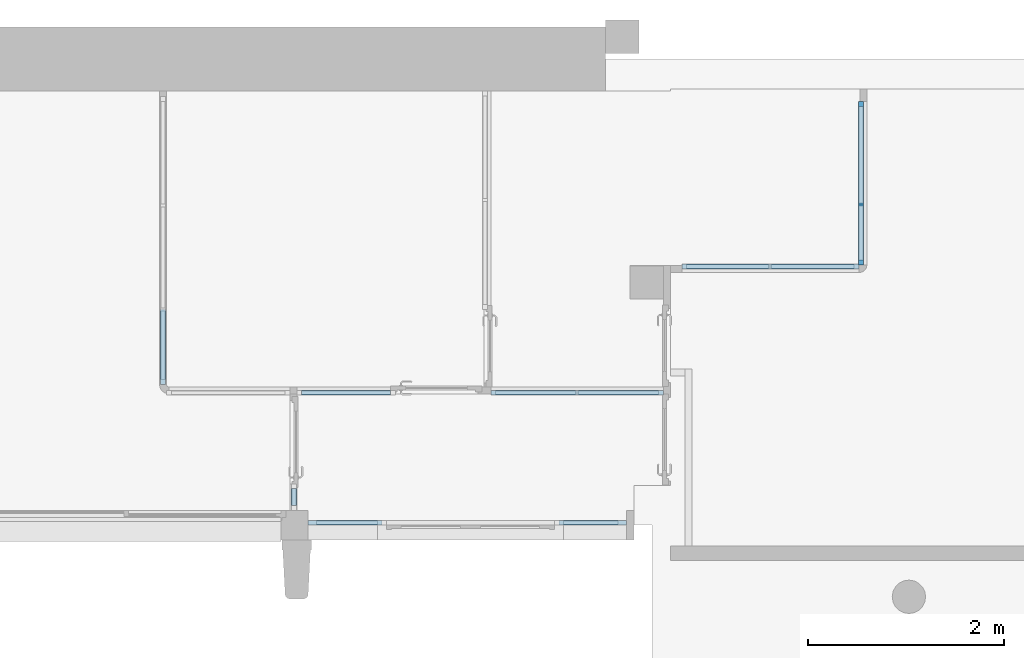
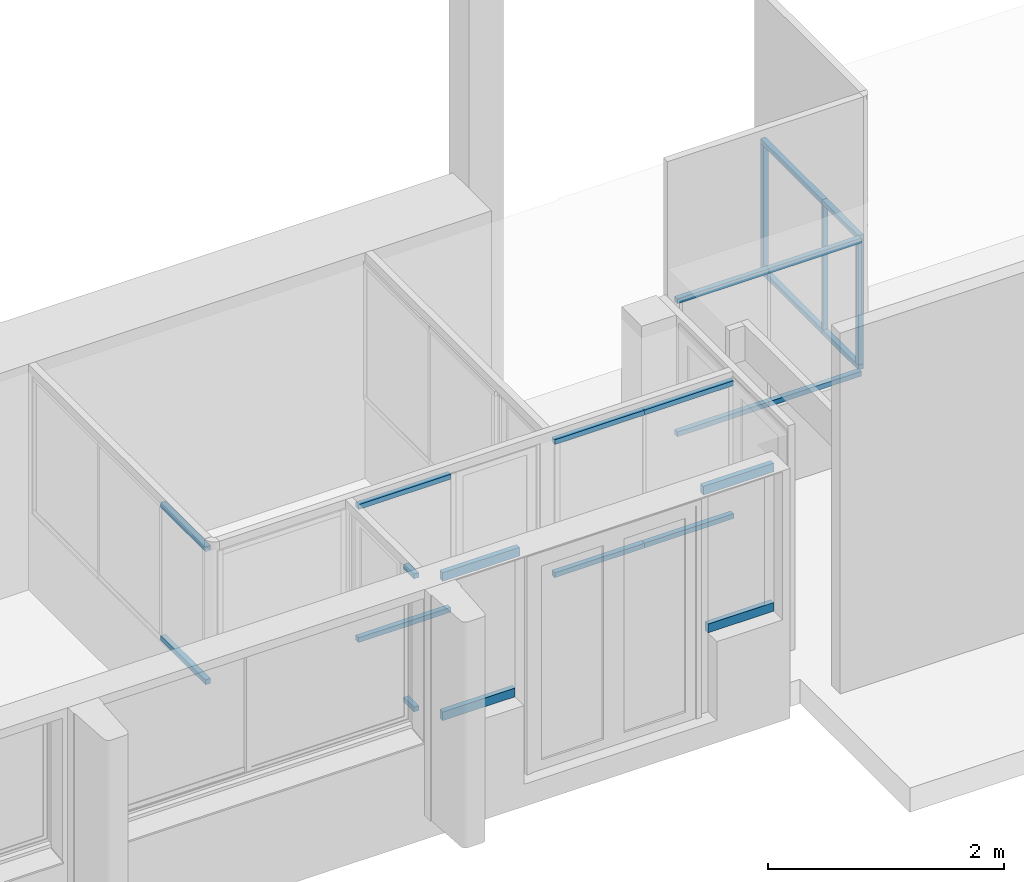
# One storey, part 3 of 19: 25 members, 7 elements without a shape of their own.
"""IFC4 building model written with IfcOpenShell, lengths in metres."""

from ifc_helpers import new_model, entity, si_unit, converted_unit, derived_unit, direction, frame, origin, place, context, subcontext, project, spatial, indexed_curve, outline, extrude, source, transform, mapped, material, type_object, type_shapes, element, aggregate, save


model = new_model("IFC4")

# Units and contexts
model_context = context("Model", 3, precision=1e-05, world=origin(), true_north=direction((6.12303176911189e-17, 1.0)))
body_context = subcontext(model_context, "Body", "Model", "MODEL_VIEW")
ifc_project = project(units=[si_unit("LENGTHUNIT", "METRE"), si_unit("AREAUNIT", "SQUARE_METRE"), si_unit("VOLUMEUNIT", "CUBIC_METRE"), converted_unit("PLANEANGLEUNIT", "DEGREE", entity("IfcRatioMeasure", 0.0174532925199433), si_unit("PLANEANGLEUNIT", "RADIAN"), dimensions=[0, 0, 0, 0, 0, 0, 0]), si_unit("MASSUNIT", "GRAM", prefix="KILO"), derived_unit("MASSDENSITYUNIT", [(si_unit("MASSUNIT", "GRAM", prefix="KILO"), 1), (si_unit("LENGTHUNIT", "METRE"), -3)]), derived_unit("MOMENTOFINERTIAUNIT", [(si_unit("LENGTHUNIT", "METRE"), 4)]), si_unit("TIMEUNIT", "SECOND"), si_unit("FREQUENCYUNIT", "HERTZ"), si_unit("THERMODYNAMICTEMPERATUREUNIT", "DEGREE_CELSIUS"), derived_unit("THERMALTRANSMITTANCEUNIT", [(si_unit("MASSUNIT", "GRAM", prefix="KILO"), 1), (si_unit("THERMODYNAMICTEMPERATUREUNIT", "KELVIN"), -1), (si_unit("TIMEUNIT", "SECOND"), -3)]), derived_unit("VOLUMETRICFLOWRATEUNIT", [(si_unit("LENGTHUNIT", "METRE"), 3), (si_unit("TIMEUNIT", "SECOND"), -1)]), si_unit("ELECTRICCURRENTUNIT", "AMPERE"), si_unit("ELECTRICVOLTAGEUNIT", "VOLT"), si_unit("POWERUNIT", "WATT"), si_unit("FORCEUNIT", "NEWTON", prefix="KILO"), si_unit("ILLUMINANCEUNIT", "LUX"), si_unit("LUMINOUSFLUXUNIT", "LUMEN"), si_unit("LUMINOUSINTENSITYUNIT", "CANDELA"), derived_unit("USERDEFINED", [(si_unit("MASSUNIT", "GRAM", prefix="KILO"), -1), (si_unit("LENGTHUNIT", "METRE"), -2), (si_unit("TIMEUNIT", "SECOND"), 3), (si_unit("LUMINOUSFLUXUNIT", "LUMEN"), 1)]), derived_unit("LINEARVELOCITYUNIT", [(si_unit("LENGTHUNIT", "METRE"), 1), (si_unit("TIMEUNIT", "SECOND"), -1)]), si_unit("PRESSUREUNIT", "PASCAL"), derived_unit("USERDEFINED", [(si_unit("LENGTHUNIT", "METRE"), -2), (si_unit("MASSUNIT", "GRAM", prefix="KILO"), 1), (si_unit("TIMEUNIT", "SECOND"), -2)]), derived_unit("LINEARFORCEUNIT", [(si_unit("MASSUNIT", "GRAM", prefix="KILO"), 1), (si_unit("LENGTHUNIT", "METRE"), 1), (si_unit("TIMEUNIT", "SECOND"), -2), (si_unit("LENGTHUNIT", "METRE"), -1)]), derived_unit("PLANARFORCEUNIT", [(si_unit("MASSUNIT", "GRAM", prefix="KILO"), 1), (si_unit("LENGTHUNIT", "METRE"), 1), (si_unit("TIMEUNIT", "SECOND"), -2), (si_unit("LENGTHUNIT", "METRE"), -2)])], contexts=[model_context])

# Site, building, storey
site_placement = place(None, origin())
site = spatial("IfcSite", under=ifc_project, at=site_placement, Name="Default", CompositionType="ELEMENT")
building_placement = place(site_placement, origin())
building = spatial("IfcBuilding", under=site, at=building_placement, Name="HOTEL CONSULAIRE BOULOGNE SUR MER", CompositionType="ELEMENT")
storey_placement = place(building_placement, frame((0.0, 0.0, -4.01003075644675)))
storey = spatial("IfcBuildingStorey", under=building, at=storey_placement, Name="SS2", CompositionType="ELEMENT", Elevation=-4.01003075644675)

# Curtain wall, members
curtain_wall_type = type_object("IfcCurtainWallType", Name="Mur-rideau:Simple panneau", PredefinedType="NOTDEFINED")
curtain_wall_1_placement = place(storey_placement, frame((0.0, 0.0, 4.01003075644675)))
curtain_wall_1 = element("IfcCurtainWall", 1, at=curtain_wall_1_placement, inside=storey, type_object=curtain_wall_type, Name="Mur-rideau:Simple panneau", ObjectType="Mur-rideau:Simple panneau", PredefinedType="NOTDEFINED")
ifc_material_1 = material(Name="PVC, souple", Category="Plastique")
member_type_1 = type_object("IfcMemberType", Name="Meneau rectangulaire:90x50", PredefinedType="MULLION", material=ifc_material_1)
shared_shape_1 = source(origin(), body_context, "Body", "SweptSolid", [
    extrude(outline(indexed_curve([(-0.025, -0.045), (0.025, -0.045), (0.025, 0.045), (-0.025, 0.045), (-0.025, -0.045)], self_intersect=False)), frame((-0.045, -0.025, -0.690570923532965), z_axis=(0.0, 0.0, 1.0), x_axis=(0.0, -1.0, 0.0)), (0.0, 0.0, 1.0), 0.690570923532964),
])
type_shapes(member_type_1, [shared_shape_1])
member_1_placement = place(storey_placement, frame((-13.9187787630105, -14.8875756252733, 2.33), z_axis=(1.0, 0.0, 0.0), x_axis=(0.0, 0.0, 1.0)))
member_1 = element("IfcMember", 2, at=member_1_placement, type_object=member_type_1, material=ifc_material_1, Name="Meneau rectangulaire:90x50", ObjectType="Meneau rectangulaire:90x50", PredefinedType="MULLION", context=body_context, shape_type="MappedRepresentation", body=[
    mapped(shared_shape_1, transform((0.0, 0.0, 0.0), scale=1.0)),
])
member_type_2 = type_object("IfcMemberType", Name="Meneau rectangulaire:90x50", PredefinedType="MULLION", material=ifc_material_1)
shared_shape_2 = source(origin(), body_context, "Body", "SweptSolid", [
    extrude(outline(indexed_curve([(-0.025, -0.045), (0.025, -0.045), (0.025, 0.045), (-0.025, 0.045), (-0.025, -0.045)], self_intersect=False)), frame((-0.045, -0.025, -0.710435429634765), z_axis=(0.0, 0.0, 1.0), x_axis=(0.0, -1.0, 0.0)), (0.0, 0.0, 1.0), 0.710435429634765),
])
type_shapes(member_type_2, [shared_shape_2])
member_2_placement = place(storey_placement, frame((-17.1647787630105, -14.8875756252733, 0.796432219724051), z_axis=(-1.0, 0.0, 0.0), x_axis=(0.0, 0.0, -1.0)))
member_2 = element("IfcMember", 3, at=member_2_placement, type_object=member_type_2, material=ifc_material_1, Name="Meneau rectangulaire:90x50", ObjectType="Meneau rectangulaire:90x50", PredefinedType="MULLION", context=body_context, shape_type="MappedRepresentation", body=[
    mapped(shared_shape_2, transform((0.0, 0.0, 0.0), scale=1.0)),
])
member_type_3 = type_object("IfcMemberType", Name="Meneau rectangulaire:90x50", PredefinedType="MULLION", material=ifc_material_1)
shared_shape_3 = source(origin(), body_context, "Body", "SweptSolid", [
    extrude(outline(indexed_curve([(-0.025, -0.045), (0.025, -0.045), (0.025, 0.045), (-0.025, 0.045), (-0.025, -0.045)], self_intersect=False)), frame((-0.045, -0.025, -0.645570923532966), z_axis=(0.0, 0.0, 1.0), x_axis=(0.0, -1.0, 0.0)), (0.0, 0.0, 1.0), 0.645570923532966),
])
type_shapes(member_type_3, [shared_shape_3])
member_3_placement = place(storey_placement, frame((-14.5643496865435, -14.8875756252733, 0.796432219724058), z_axis=(-1.0, 0.0, 0.0), x_axis=(0.0, 0.0, -1.0)))
member_3 = element("IfcMember", 4, at=member_3_placement, type_object=member_type_3, material=ifc_material_1, Name="Meneau rectangulaire:90x50", ObjectType="Meneau rectangulaire:90x50", PredefinedType="MULLION", context=body_context, shape_type="MappedRepresentation", body=[
    mapped(shared_shape_3, transform((0.0, 0.0, 0.0), scale=1.0)),
])
member_type_4 = type_object("IfcMemberType", Name="Meneau rectangulaire:90x50", PredefinedType="MULLION", material=ifc_material_1)
shared_shape_4 = source(origin(), body_context, "Body", "SweptSolid", [
    extrude(outline(indexed_curve([(-0.025, -0.045), (0.025, -0.045), (0.025, 0.045), (-0.025, 0.045), (-0.025, -0.045)], self_intersect=False)), frame((-0.045, -0.025, -0.755435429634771), z_axis=(0.0, 0.0, 1.0), x_axis=(0.0, -1.0, 0.0)), (0.0, 0.0, 1.0), 0.755435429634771),
])
type_shapes(member_type_4, [shared_shape_4])
member_4_placement = place(storey_placement, frame((-16.4093433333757, -14.8875756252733, 2.33), z_axis=(1.0, 0.0, 0.0), x_axis=(0.0, 0.0, 1.0)))
member_4 = element("IfcMember", 5, at=member_4_placement, type_object=member_type_4, material=ifc_material_1, Name="Meneau rectangulaire:90x50", ObjectType="Meneau rectangulaire:90x50", PredefinedType="MULLION", context=body_context, shape_type="MappedRepresentation", body=[
    mapped(shared_shape_4, transform((0.0, 0.0, 0.0), scale=1.0)),
])
aggregate(curtain_wall_1, [member_1, member_2, member_3, member_4])

curtain_wall_2_placement = place(storey_placement, frame((0.0, 0.0, 4.01003075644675)))
curtain_wall_2 = element("IfcCurtainWall", 6, at=curtain_wall_2_placement, inside=storey, type_object=curtain_wall_type, Name="Mur-rideau:Simple panneau", ObjectType="Mur-rideau:Simple panneau", PredefinedType="NOTDEFINED")
ifc_material_2 = material(Name="PVC - Blanc", Category="Plastique")
member_type_5 = type_object("IfcMemberType", Name="Meneau rectangulaire:50x50 PVC BLANC", PredefinedType="MULLION", material=ifc_material_2)
shared_shape_5 = source(origin(), body_context, "Body", "SweptSolid", [
    extrude(outline(indexed_curve([(-0.025, -0.025), (0.025, -0.025), (0.025, 0.025), (-0.025, 0.025), (-0.025, -0.025)], self_intersect=False)), frame((-0.025, -0.025, -0.17200000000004), z_axis=(0.0, 0.0, 1.0), x_axis=(0.0, -1.0, 0.0)), (0.0, 0.0, 1.0), 0.17200000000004),
])
type_shapes(member_type_5, [shared_shape_5])
member_5_placement = place(storey_placement, frame((-17.2824892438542, -14.5155756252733, 2.25353263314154), z_axis=(0.0, 1.0, 0.0), x_axis=(0.0, 0.0, 1.0)))
member_5 = element("IfcMember", 7, at=member_5_placement, type_object=member_type_5, material=ifc_material_2, Name="Meneau rectangulaire:50x50 PVC BLANC", ObjectType="Meneau rectangulaire:50x50 PVC BLANC", PredefinedType="MULLION", context=body_context, shape_type="MappedRepresentation", body=[
    mapped(shared_shape_5, transform((0.0, 0.0, 0.0), scale=1.0)),
])
member_type_6 = type_object("IfcMemberType", Name="Meneau rectangulaire:50x50 PVC BLANC", PredefinedType="MULLION", material=ifc_material_2)
shared_shape_6 = source(origin(), body_context, "Body", "SweptSolid", [
    extrude(outline(indexed_curve([(-0.025, -0.025), (0.025, -0.025), (0.025, 0.025), (-0.025, 0.025), (-0.025, -0.025)], self_intersect=False)), frame((-0.025, -0.025, -0.17200000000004), z_axis=(0.0, 0.0, 1.0), x_axis=(0.0, -1.0, 0.0)), (0.0, 0.0, 1.0), 0.17200000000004),
])
type_shapes(member_type_6, [shared_shape_6])
member_6_placement = place(storey_placement, frame((-17.2824892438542, -14.6875756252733, 0.824265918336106), z_axis=(0.0, -1.0, 0.0), x_axis=(0.0, 0.0, -1.0)))
member_6 = element("IfcMember", 8, at=member_6_placement, type_object=member_type_6, material=ifc_material_2, Name="Meneau rectangulaire:50x50 PVC BLANC", ObjectType="Meneau rectangulaire:50x50 PVC BLANC", PredefinedType="MULLION", context=body_context, shape_type="MappedRepresentation", body=[
    mapped(shared_shape_6, transform((0.0, 0.0, 0.0), scale=1.0)),
])
aggregate(curtain_wall_2, [member_5, member_6])

curtain_wall_3_placement = place(storey_placement, frame((0.0, 0.0, 4.01003075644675)))
curtain_wall_3 = element("IfcCurtainWall", 9, at=curtain_wall_3_placement, inside=storey, type_object=curtain_wall_type, Name="Mur-rideau:Simple panneau", ObjectType="Mur-rideau:Simple panneau", PredefinedType="NOTDEFINED")
member_type_7 = type_object("IfcMemberType", Name="Meneau rectangulaire:50x50 PVC BLANC", PredefinedType="MULLION", material=ifc_material_2)
shared_shape_7 = source(origin(), body_context, "Body", "SweptSolid", [
    extrude(outline(indexed_curve([(-0.025, -0.025), (0.025, -0.025), (0.025, 0.025), (-0.025, 0.025), (-0.025, -0.025)], self_intersect=False)), frame((-0.025, -0.025, -1.29409370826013), z_axis=(0.0, 0.0, 1.0), x_axis=(0.0, -1.0, 0.0)), (0.0, 0.0, 1.0), 1.29409370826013),
])
type_shapes(member_type_7, [shared_shape_7])
member_7_placement = place(storey_placement, frame((-11.5089610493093, -12.2361492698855, 2.20353263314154), z_axis=(0.0, 0.0, 1.0), x_axis=(0.0, -1.0, 0.0)))
member_7 = element("IfcMember", 10, at=member_7_placement, type_object=member_type_7, material=ifc_material_2, Name="Meneau rectangulaire:50x50 PVC BLANC", ObjectType="Meneau rectangulaire:50x50 PVC BLANC", PredefinedType="MULLION", context=body_context, shape_type="MappedRepresentation", body=[
    mapped(shared_shape_7, transform((0.0, 0.0, 0.0), scale=1.0)),
])
member_type_8 = type_object("IfcMemberType", Name="Meneau rectangulaire:50x50 PVC BLANC", PredefinedType="MULLION", material=ifc_material_2)
shared_shape_8 = source(origin(), body_context, "Body", "SweptSolid", [
    extrude(outline(indexed_curve([(-0.025, -0.025), (0.025, -0.025), (0.025, 0.025), (-0.025, 0.025), (-0.025, -0.025)], self_intersect=False)), frame((-0.025, -0.025, -1.0490251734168), z_axis=(0.0, 0.0, 1.0), x_axis=(0.0, -1.0, 0.0)), (0.0, 0.0, 1.0), 1.0490251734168),
])
type_shapes(member_type_8, [shared_shape_8])
member_8_placement = place(storey_placement, frame((-11.5089610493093, -10.5729964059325, 2.25353263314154), z_axis=(0.0, 1.0, 0.0), x_axis=(0.0, 0.0, 1.0)))
member_8 = element("IfcMember", 11, at=member_8_placement, type_object=member_type_8, material=ifc_material_2, Name="Meneau rectangulaire:50x50 PVC BLANC", ObjectType="Meneau rectangulaire:50x50 PVC BLANC", PredefinedType="MULLION", context=body_context, shape_type="MappedRepresentation", body=[
    mapped(shared_shape_8, transform((0.0, 0.0, 0.0), scale=1.0)),
])
member_type_9 = type_object("IfcMemberType", Name="Meneau rectangulaire:50x50 PVC BLANC", PredefinedType="MULLION", material=ifc_material_2)
shared_shape_9 = source(origin(), body_context, "Body", "SweptSolid", [
    extrude(outline(indexed_curve([(-0.025, -0.025), (0.025, -0.025), (0.025, 0.025), (-0.025, 0.025), (-0.025, -0.025)], self_intersect=False)), frame((-0.025, -0.025, -1.29409370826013), z_axis=(0.0, 0.0, 1.0), x_axis=(0.0, -1.0, 0.0)), (0.0, 0.0, 1.0), 1.29409370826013),
])
type_shapes(member_type_9, [shared_shape_9])
member_9_placement = place(storey_placement, frame((-11.5089610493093, -10.5729964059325, 0.909438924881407), z_axis=(0.0, 0.0, -1.0), x_axis=(0.0, 1.0, 0.0)))
member_9 = element("IfcMember", 12, at=member_9_placement, type_object=member_type_9, material=ifc_material_2, Name="Meneau rectangulaire:50x50 PVC BLANC", ObjectType="Meneau rectangulaire:50x50 PVC BLANC", PredefinedType="MULLION", context=body_context, shape_type="MappedRepresentation", body=[
    mapped(shared_shape_9, transform((0.0, 0.0, 0.0), scale=1.0)),
])
member_type_10 = type_object("IfcMemberType", Name="Meneau rectangulaire:50x50 PVC BLANC", PredefinedType="MULLION", material=ifc_material_2)
shared_shape_10 = source(origin(), body_context, "Body", "SweptSolid", [
    extrude(outline(indexed_curve([(-0.025, -0.025), (0.025, -0.025), (0.025, 0.025), (-0.025, 0.025), (-0.025, -0.025)], self_intersect=False)), frame((-0.025, -0.025, -0.614127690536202), z_axis=(0.0, 0.0, 1.0), x_axis=(0.0, -1.0, 0.0)), (0.0, 0.0, 1.0), 0.614127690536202),
])
type_shapes(member_type_10, [shared_shape_10])
member_10_placement = place(storey_placement, frame((-11.5089610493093, -12.2361492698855, 0.859438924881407), z_axis=(0.0, -1.0, 0.0), x_axis=(0.0, 0.0, -1.0)))
member_10 = element("IfcMember", 13, at=member_10_placement, type_object=member_type_10, material=ifc_material_2, Name="Meneau rectangulaire:50x50 PVC BLANC", ObjectType="Meneau rectangulaire:50x50 PVC BLANC", PredefinedType="MULLION", context=body_context, shape_type="MappedRepresentation", body=[
    mapped(shared_shape_10, transform((0.0, 0.0, 0.0), scale=1.0)),
])
member_type_11 = type_object("IfcMemberType", Name="Meneau rectangulaire:50x30", PredefinedType="MULLION", material=ifc_material_2)
shared_shape_11 = source(origin(), body_context, "Body", "SweptSolid", [
    extrude(outline(indexed_curve([(-0.025, -0.015), (0.025, -0.015), (0.025, 0.015), (-0.025, 0.015), (-0.025, -0.015)], self_intersect=False)), frame((0.0, -0.025, -1.29409370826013), z_axis=(0.0, 0.0, 1.0), x_axis=(0.0, -1.0, 0.0)), (0.0, 0.0, 1.0), 1.29409370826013),
])
type_shapes(member_type_11, [shared_shape_11])
member_11_placement = place(storey_placement, frame((-11.5089610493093, -11.6220215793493, 0.909438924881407), z_axis=(0.0, 0.0, -1.0), x_axis=(0.0, 1.0, 0.0)))
member_11 = element("IfcMember", 14, at=member_11_placement, type_object=member_type_11, material=ifc_material_2, Name="Meneau rectangulaire:50x30", ObjectType="Meneau rectangulaire:50x30", PredefinedType="MULLION", context=body_context, shape_type="MappedRepresentation", body=[
    mapped(shared_shape_11, transform((0.0, 0.0, 0.0), scale=1.0)),
])
member_type_12 = type_object("IfcMemberType", Name="Meneau rectangulaire:50x50 PVC BLANC", PredefinedType="MULLION", material=ifc_material_2)
shared_shape_12 = source(origin(), body_context, "Body", "SweptSolid", [
    extrude(outline(indexed_curve([(-0.025, -0.025), (0.025, -0.025), (0.025, 0.025), (-0.025, 0.025), (-0.025, -0.025)], self_intersect=False)), frame((-0.025, -0.025, -1.0490251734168), z_axis=(0.0, 0.0, 1.0), x_axis=(0.0, -1.0, 0.0)), (0.0, 0.0, 1.0), 1.0490251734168),
])
type_shapes(member_type_12, [shared_shape_12])
member_12_placement = place(storey_placement, frame((-11.5089610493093, -11.6220215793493, 0.859438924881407), z_axis=(0.0, -1.0, 0.0), x_axis=(0.0, 0.0, -1.0)))
member_12 = element("IfcMember", 15, at=member_12_placement, type_object=member_type_12, material=ifc_material_2, Name="Meneau rectangulaire:50x50 PVC BLANC", ObjectType="Meneau rectangulaire:50x50 PVC BLANC", PredefinedType="MULLION", context=body_context, shape_type="MappedRepresentation", body=[
    mapped(shared_shape_12, transform((0.0, 0.0, 0.0), scale=1.0)),
])
member_type_13 = type_object("IfcMemberType", Name="Meneau rectangulaire:50x50 PVC BLANC", PredefinedType="MULLION", material=ifc_material_2)
shared_shape_13 = source(origin(), body_context, "Body", "SweptSolid", [
    extrude(outline(indexed_curve([(-0.025, -0.025), (0.025, -0.025), (0.025, 0.025), (-0.025, 0.025), (-0.025, -0.025)], self_intersect=False)), frame((-0.025, -0.025, -0.614127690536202), z_axis=(0.0, 0.0, 1.0), x_axis=(0.0, -1.0, 0.0)), (0.0, 0.0, 1.0), 0.614127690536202),
])
type_shapes(member_type_13, [shared_shape_13])
member_13_placement = place(storey_placement, frame((-11.5089610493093, -11.6220215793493, 2.25353263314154), z_axis=(0.0, 1.0, 0.0), x_axis=(0.0, 0.0, 1.0)))
member_13 = element("IfcMember", 16, at=member_13_placement, type_object=member_type_13, material=ifc_material_2, Name="Meneau rectangulaire:50x50 PVC BLANC", ObjectType="Meneau rectangulaire:50x50 PVC BLANC", PredefinedType="MULLION", context=body_context, shape_type="MappedRepresentation", body=[
    mapped(shared_shape_13, transform((0.0, 0.0, 0.0), scale=1.0)),
])
aggregate(curtain_wall_3, [member_7, member_8, member_9, member_10, member_11, member_12, member_13])

curtain_wall_4_placement = place(storey_placement, frame((0.0, 0.0, 4.01003075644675)))
curtain_wall_4 = element("IfcCurtainWall", 17, at=curtain_wall_4_placement, inside=storey, type_object=curtain_wall_type, Name="Mur-rideau:Simple panneau", ObjectType="Mur-rideau:Simple panneau", PredefinedType="NOTDEFINED")
member_type_14 = type_object("IfcMemberType", Name="Meneau rectangulaire:50x50 PVC BLANC", PredefinedType="MULLION", material=ifc_material_2)
shared_shape_14 = source(origin(), body_context, "Body", "SweptSolid", [
    extrude(outline(indexed_curve([(-0.025, -0.025), (0.025, -0.025), (0.025, 0.025), (-0.025, 0.025), (-0.025, -0.025)], self_intersect=False)), frame((-0.025, -0.025, -0.906009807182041), z_axis=(0.0, 0.0, 1.0), x_axis=(0.0, -1.0, 0.0)), (0.0, 0.0, 1.0), 0.90600980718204),
])
type_shapes(member_type_14, [shared_shape_14])
member_14_placement = place(storey_placement, frame((-11.5529610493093, -12.2801492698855, 2.25353263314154), z_axis=(1.0, 0.0, 0.0), x_axis=(0.0, 0.0, 1.0)))
member_14 = element("IfcMember", 18, at=member_14_placement, type_object=member_type_14, material=ifc_material_2, Name="Meneau rectangulaire:50x50 PVC BLANC", ObjectType="Meneau rectangulaire:50x50 PVC BLANC", PredefinedType="MULLION", context=body_context, shape_type="MappedRepresentation", body=[
    mapped(shared_shape_14, transform((0.0, 0.0, 0.0), scale=1.0)),
])
member_type_15 = type_object("IfcMemberType", Name="Meneau rectangulaire:50x50 PVC BLANC", PredefinedType="MULLION", material=ifc_material_2)
shared_shape_15 = source(origin(), body_context, "Body", "SweptSolid", [
    extrude(outline(indexed_curve([(-0.025, -0.025), (0.025, -0.025), (0.025, 0.025), (-0.025, 0.025), (-0.025, -0.025)], self_intersect=False)), frame((-0.025, -0.025, -0.899009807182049), z_axis=(0.0, 0.0, 1.0), x_axis=(0.0, -1.0, 0.0)), (0.0, 0.0, 1.0), 0.899009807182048),
])
type_shapes(member_type_15, [shared_shape_15])
member_15_placement = place(storey_placement, frame((-13.3579806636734, -12.2801492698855, 0.824265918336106), z_axis=(-1.0, 0.0, 0.0), x_axis=(0.0, 0.0, -1.0)))
member_15 = element("IfcMember", 19, at=member_15_placement, type_object=member_type_15, material=ifc_material_2, Name="Meneau rectangulaire:50x50 PVC BLANC", ObjectType="Meneau rectangulaire:50x50 PVC BLANC", PredefinedType="MULLION", context=body_context, shape_type="MappedRepresentation", body=[
    mapped(shared_shape_15, transform((0.0, 0.0, 0.0), scale=1.0)),
])
member_type_16 = type_object("IfcMemberType", Name="Meneau rectangulaire:50x50 PVC BLANC", PredefinedType="MULLION", material=ifc_material_2)
shared_shape_16 = source(origin(), body_context, "Body", "SweptSolid", [
    extrude(outline(indexed_curve([(-0.025, -0.025), (0.025, -0.025), (0.025, 0.025), (-0.025, 0.025), (-0.025, -0.025)], self_intersect=False)), frame((-0.025, -0.025, -0.906009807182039), z_axis=(0.0, 0.0, 1.0), x_axis=(0.0, -1.0, 0.0)), (0.0, 0.0, 1.0), 0.90600980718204),
])
type_shapes(member_type_16, [shared_shape_16])
member_16_placement = place(storey_placement, frame((-12.4589708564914, -12.2801492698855, 0.824265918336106), z_axis=(-1.0, 0.0, 0.0), x_axis=(0.0, 0.0, -1.0)))
member_16 = element("IfcMember", 20, at=member_16_placement, type_object=member_type_16, material=ifc_material_2, Name="Meneau rectangulaire:50x50 PVC BLANC", ObjectType="Meneau rectangulaire:50x50 PVC BLANC", PredefinedType="MULLION", context=body_context, shape_type="MappedRepresentation", body=[
    mapped(shared_shape_16, transform((0.0, 0.0, 0.0), scale=1.0)),
])
member_type_17 = type_object("IfcMemberType", Name="Meneau rectangulaire:50x50 PVC BLANC", PredefinedType="MULLION", material=ifc_material_2)
shared_shape_17 = source(origin(), body_context, "Body", "SweptSolid", [
    extrude(outline(indexed_curve([(-0.025, -0.025), (0.025, -0.025), (0.025, 0.025), (-0.025, 0.025), (-0.025, -0.025)], self_intersect=False)), frame((-0.025, -0.025, -0.899009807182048), z_axis=(0.0, 0.0, 1.0), x_axis=(0.0, -1.0, 0.0)), (0.0, 0.0, 1.0), 0.899009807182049),
])
type_shapes(member_type_17, [shared_shape_17])
member_17_placement = place(storey_placement, frame((-12.4589708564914, -12.2801492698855, 2.25353263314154), z_axis=(1.0, 0.0, 0.0), x_axis=(0.0, 0.0, 1.0)))
member_17 = element("IfcMember", 21, at=member_17_placement, type_object=member_type_17, material=ifc_material_2, Name="Meneau rectangulaire:50x50 PVC BLANC", ObjectType="Meneau rectangulaire:50x50 PVC BLANC", PredefinedType="MULLION", context=body_context, shape_type="MappedRepresentation", body=[
    mapped(shared_shape_17, transform((0.0, 0.0, 0.0), scale=1.0)),
])
aggregate(curtain_wall_4, [member_14, member_15, member_16, member_17])

curtain_wall_5_placement = place(storey_placement, frame((0.0, 0.0, 4.01003075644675)))
curtain_wall_5 = element("IfcCurtainWall", 22, at=curtain_wall_5_placement, inside=storey, type_object=curtain_wall_type, Name="Mur-rideau:Simple panneau", ObjectType="Mur-rideau:Simple panneau", PredefinedType="NOTDEFINED")
member_type_18 = type_object("IfcMemberType", Name="Meneau rectangulaire:50x50 PVC BLANC", PredefinedType="MULLION", material=ifc_material_2)
shared_shape_18 = source(origin(), body_context, "Body", "SweptSolid", [
    extrude(outline(indexed_curve([(-0.025, -0.025), (0.025, -0.025), (0.025, 0.025), (-0.025, 0.025), (-0.025, -0.025)], self_intersect=False)), frame((-0.025, -0.025, -0.878422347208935), z_axis=(0.0, 0.0, 1.0), x_axis=(0.0, -1.0, 0.0)), (0.0, 0.0, 1.0), 0.878422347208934),
])
type_shapes(member_type_18, [shared_shape_18])
member_18_placement = place(storey_placement, frame((-15.3021943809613, -13.51432416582, 2.25353263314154), z_axis=(-1.0, 0.0, 0.0), x_axis=(0.0, 0.0, 1.0)))
member_18 = element("IfcMember", 23, at=member_18_placement, type_object=member_type_18, material=ifc_material_2, Name="Meneau rectangulaire:50x50 PVC BLANC", ObjectType="Meneau rectangulaire:50x50 PVC BLANC", PredefinedType="MULLION", context=body_context, shape_type="MappedRepresentation", body=[
    mapped(shared_shape_18, transform((0.0, 0.0, 0.0), scale=1.0)),
])
member_type_19 = type_object("IfcMemberType", Name="Meneau rectangulaire:50x50 PVC BLANC", PredefinedType="MULLION", material=ifc_material_2)
shared_shape_19 = source(origin(), body_context, "Body", "SweptSolid", [
    extrude(outline(indexed_curve([(-0.025, -0.025), (0.025, -0.025), (0.025, 0.025), (-0.025, 0.025), (-0.025, -0.025)], self_intersect=False)), frame((-0.025, -0.025, -0.878422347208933), z_axis=(0.0, 0.0, 1.0), x_axis=(0.0, -1.0, 0.0)), (0.0, 0.0, 1.0), 0.878422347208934),
])
type_shapes(member_type_19, [shared_shape_19])
member_19_placement = place(storey_placement, frame((-13.5453496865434, -13.51432416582, 0.824265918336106), z_axis=(1.0, 0.0, 0.0), x_axis=(0.0, 0.0, -1.0)))
member_19 = element("IfcMember", 24, at=member_19_placement, type_object=member_type_19, material=ifc_material_2, Name="Meneau rectangulaire:50x50 PVC BLANC", ObjectType="Meneau rectangulaire:50x50 PVC BLANC", PredefinedType="MULLION", context=body_context, shape_type="MappedRepresentation", body=[
    mapped(shared_shape_19, transform((0.0, 0.0, 0.0), scale=1.0)),
])
member_type_20 = type_object("IfcMemberType", Name="Meneau rectangulaire:50x50 PVC BLANC", PredefinedType="MULLION", material=ifc_material_2)
shared_shape_20 = source(origin(), body_context, "Body", "SweptSolid", [
    extrude(outline(indexed_curve([(-0.025, -0.025), (0.025, -0.025), (0.025, 0.025), (-0.025, 0.025), (-0.025, -0.025)], self_intersect=False)), frame((-0.025, -0.025, -0.878422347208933), z_axis=(0.0, 0.0, 1.0), x_axis=(0.0, -1.0, 0.0)), (0.0, 0.0, 1.0), 0.878422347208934),
])
type_shapes(member_type_20, [shared_shape_20])
member_20_placement = place(storey_placement, frame((-14.4237720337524, -13.51432416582, 0.824265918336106), z_axis=(1.0, 0.0, 0.0), x_axis=(0.0, 0.0, -1.0)))
member_20 = element("IfcMember", 25, at=member_20_placement, type_object=member_type_20, material=ifc_material_2, Name="Meneau rectangulaire:50x50 PVC BLANC", ObjectType="Meneau rectangulaire:50x50 PVC BLANC", PredefinedType="MULLION", context=body_context, shape_type="MappedRepresentation", body=[
    mapped(shared_shape_20, transform((0.0, 0.0, 0.0), scale=1.0)),
])
member_type_21 = type_object("IfcMemberType", Name="Meneau rectangulaire:50x50 PVC BLANC", PredefinedType="MULLION", material=ifc_material_2)
shared_shape_21 = source(origin(), body_context, "Body", "SweptSolid", [
    extrude(outline(indexed_curve([(-0.025, -0.025), (0.025, -0.025), (0.025, 0.025), (-0.025, 0.025), (-0.025, -0.025)], self_intersect=False)), frame((-0.025, -0.025, -0.878422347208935), z_axis=(0.0, 0.0, 1.0), x_axis=(0.0, -1.0, 0.0)), (0.0, 0.0, 1.0), 0.878422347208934),
])
type_shapes(member_type_21, [shared_shape_21])
member_21_placement = place(storey_placement, frame((-14.4237720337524, -13.51432416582, 2.25353263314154), z_axis=(-1.0, 0.0, 0.0), x_axis=(0.0, 0.0, 1.0)))
member_21 = element("IfcMember", 26, at=member_21_placement, type_object=member_type_21, material=ifc_material_2, Name="Meneau rectangulaire:50x50 PVC BLANC", ObjectType="Meneau rectangulaire:50x50 PVC BLANC", PredefinedType="MULLION", context=body_context, shape_type="MappedRepresentation", body=[
    mapped(shared_shape_21, transform((0.0, 0.0, 0.0), scale=1.0)),
])
aggregate(curtain_wall_5, [member_18, member_19, member_20, member_21])

curtain_wall_6_placement = place(storey_placement, frame((0.0, 0.0, 4.01003075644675)))
curtain_wall_6 = element("IfcCurtainWall", 27, at=curtain_wall_6_placement, inside=storey, type_object=curtain_wall_type, Name="Mur-rideau:Simple panneau", ObjectType="Mur-rideau:Simple panneau", PredefinedType="NOTDEFINED")
member_type_22 = type_object("IfcMemberType", Name="Meneau rectangulaire:50x50 PVC BLANC", PredefinedType="MULLION", material=ifc_material_2)
shared_shape_22 = source(origin(), body_context, "Body", "SweptSolid", [
    extrude(outline(indexed_curve([(-0.025, -0.025), (0.025, -0.025), (0.025, 0.025), (-0.025, 0.025), (-0.025, -0.025)], self_intersect=False)), frame((-0.025, -0.025, -0.763), z_axis=(0.0, 0.0, 1.0), x_axis=(0.0, -1.0, 0.0)), (0.0, 0.0, 1.0), 0.763),
])
type_shapes(member_type_22, [shared_shape_22])
member_22_placement = place(storey_placement, frame((-18.6137787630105, -13.45532416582, 0.824265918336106), z_axis=(0.0, -1.0, 0.0), x_axis=(0.0, 0.0, -1.0)))
member_22 = element("IfcMember", 28, at=member_22_placement, type_object=member_type_22, material=ifc_material_2, Name="Meneau rectangulaire:50x50 PVC BLANC", ObjectType="Meneau rectangulaire:50x50 PVC BLANC", PredefinedType="MULLION", context=body_context, shape_type="MappedRepresentation", body=[
    mapped(shared_shape_22, transform((0.0, 0.0, 0.0), scale=1.0)),
])
member_type_23 = type_object("IfcMemberType", Name="Meneau rectangulaire:50x50 PVC BLANC", PredefinedType="MULLION", material=ifc_material_2)
shared_shape_23 = source(origin(), body_context, "Body", "SweptSolid", [
    extrude(outline(indexed_curve([(-0.025, -0.025), (0.025, -0.025), (0.025, 0.025), (-0.025, 0.025), (-0.025, -0.025)], self_intersect=False)), frame((-0.025, -0.025, -0.763), z_axis=(0.0, 0.0, 1.0), x_axis=(0.0, -1.0, 0.0)), (0.0, 0.0, 1.0), 0.763),
])
type_shapes(member_type_23, [shared_shape_23])
member_23_placement = place(storey_placement, frame((-18.6137787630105, -12.69232416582, 2.25353263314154), z_axis=(0.0, 1.0, 0.0), x_axis=(0.0, 0.0, 1.0)))
member_23 = element("IfcMember", 29, at=member_23_placement, type_object=member_type_23, material=ifc_material_2, Name="Meneau rectangulaire:50x50 PVC BLANC", ObjectType="Meneau rectangulaire:50x50 PVC BLANC", PredefinedType="MULLION", context=body_context, shape_type="MappedRepresentation", body=[
    mapped(shared_shape_23, transform((0.0, 0.0, 0.0), scale=1.0)),
])
aggregate(curtain_wall_6, [member_22, member_23])

curtain_wall_7_placement = place(storey_placement, frame((0.0, 0.0, 4.01003075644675)))
curtain_wall_7 = element("IfcCurtainWall", 30, at=curtain_wall_7_placement, inside=storey, type_object=curtain_wall_type, Name="Mur-rideau:Simple panneau", ObjectType="Mur-rideau:Simple panneau", PredefinedType="NOTDEFINED")
member_type_24 = type_object("IfcMemberType", Name="Meneau rectangulaire:50x50 PVC BLANC", PredefinedType="MULLION", material=ifc_material_2)
shared_shape_24 = source(origin(), body_context, "Body", "SweptSolid", [
    extrude(outline(indexed_curve([(-0.025, -0.025), (0.025, -0.025), (0.025, 0.025), (-0.025, 0.025), (-0.025, -0.025)], self_intersect=False)), frame((-0.025, -0.025, -0.905584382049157), z_axis=(0.0, 0.0, 1.0), x_axis=(0.0, -1.0, 0.0)), (0.0, 0.0, 1.0), 0.905584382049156),
])
type_shapes(member_type_24, [shared_shape_24])
member_24_placement = place(storey_placement, frame((-17.2267787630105, -13.51432416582, 2.25353263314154), z_axis=(-1.0, 0.0, 0.0), x_axis=(0.0, 0.0, 1.0)))
member_24 = element("IfcMember", 31, at=member_24_placement, type_object=member_type_24, material=ifc_material_2, Name="Meneau rectangulaire:50x50 PVC BLANC", ObjectType="Meneau rectangulaire:50x50 PVC BLANC", PredefinedType="MULLION", context=body_context, shape_type="MappedRepresentation", body=[
    mapped(shared_shape_24, transform((0.0, 0.0, 0.0), scale=1.0)),
])
member_type_25 = type_object("IfcMemberType", Name="Meneau rectangulaire:50x50 PVC BLANC", PredefinedType="MULLION", material=ifc_material_2)
shared_shape_25 = source(origin(), body_context, "Body", "SweptSolid", [
    extrude(outline(indexed_curve([(-0.025, -0.025), (0.025, -0.025), (0.025, 0.025), (-0.025, 0.025), (-0.025, -0.025)], self_intersect=False)), frame((-0.025, -0.025, -0.905584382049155), z_axis=(0.0, 0.0, 1.0), x_axis=(0.0, -1.0, 0.0)), (0.0, 0.0, 1.0), 0.905584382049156),
])
type_shapes(member_type_25, [shared_shape_25])
member_25_placement = place(storey_placement, frame((-16.3211943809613, -13.51432416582, 0.824265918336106), z_axis=(1.0, 0.0, 0.0), x_axis=(0.0, 0.0, -1.0)))
member_25 = element("IfcMember", 32, at=member_25_placement, type_object=member_type_25, material=ifc_material_2, Name="Meneau rectangulaire:50x50 PVC BLANC", ObjectType="Meneau rectangulaire:50x50 PVC BLANC", PredefinedType="MULLION", context=body_context, shape_type="MappedRepresentation", body=[
    mapped(shared_shape_25, transform((0.0, 0.0, 0.0), scale=1.0)),
])
aggregate(curtain_wall_7, [member_24, member_25])

save(model, "model.ifc")
